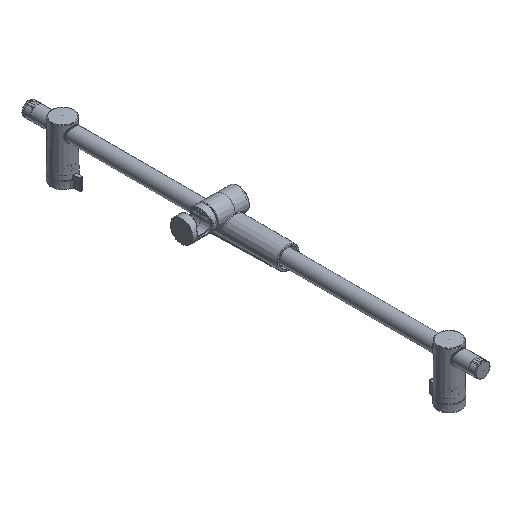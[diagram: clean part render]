
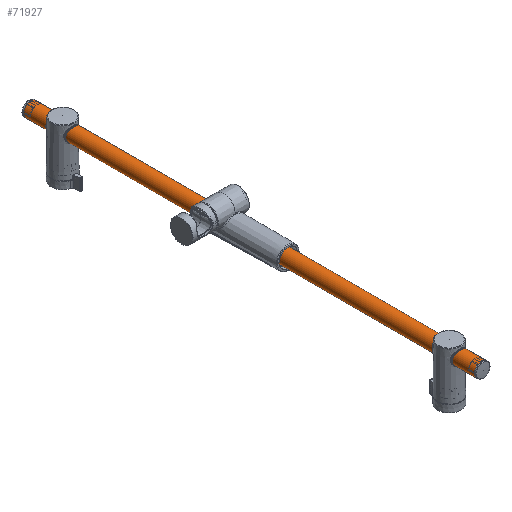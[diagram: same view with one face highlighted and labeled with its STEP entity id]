
A CAD part, isometric view. The second image highlights one B-rep face of the part: STEP entity #71927.
In plain terms, the highlighted cylindrical face has radius 11 mm (diameter 22 mm), a full revolution.
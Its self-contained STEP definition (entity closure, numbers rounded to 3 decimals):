
#4282=LINE('',#105081,#9353);
#9353=VECTOR('',#84303,11.);
#14424=CYLINDRICAL_SURFACE('',#76436,11.);
#15568=FACE_OUTER_BOUND('',#20031,.T.);
#20031=EDGE_LOOP('',(#47254,#47255,#47256,#47257,#47258,#47259));
#24766=CIRCLE('',#76432,11.);
#24767=CIRCLE('',#76433,11.);
#24770=CIRCLE('',#76437,11.);
#24771=CIRCLE('',#76438,11.);
#28631=VERTEX_POINT('',#105068);
#28632=VERTEX_POINT('',#105069);
#28635=VERTEX_POINT('',#105077);
#28636=VERTEX_POINT('',#105078);
#35841=EDGE_CURVE('',#28631,#28632,#24766,.T.);
#35842=EDGE_CURVE('',#28632,#28631,#24767,.T.);
#35845=EDGE_CURVE('',#28635,#28636,#24770,.T.);
#35846=EDGE_CURVE('',#28636,#28635,#24771,.T.);
#35847=EDGE_CURVE('',#28636,#28632,#4282,.T.);
#47254=ORIENTED_EDGE('',*,*,#35845,.F.);
#47255=ORIENTED_EDGE('',*,*,#35846,.F.);
#47256=ORIENTED_EDGE('',*,*,#35847,.T.);
#47257=ORIENTED_EDGE('',*,*,#35842,.T.);
#47258=ORIENTED_EDGE('',*,*,#35841,.T.);
#47259=ORIENTED_EDGE('',*,*,#35847,.F.);
#71927=ADVANCED_FACE('',(#15568),#14424,.T.);
#76432=AXIS2_PLACEMENT_3D('',#105070,#84289,#84290);
#76433=AXIS2_PLACEMENT_3D('',#105071,#84291,#84292);
#76436=AXIS2_PLACEMENT_3D('',#105076,#84297,#84298);
#76437=AXIS2_PLACEMENT_3D('',#105079,#84299,#84300);
#76438=AXIS2_PLACEMENT_3D('',#105080,#84301,#84302);
#84289=DIRECTION('center_axis',(0.,1.,0.));
#84290=DIRECTION('ref_axis',(0.,0.,1.));
#84291=DIRECTION('center_axis',(0.,1.,0.));
#84292=DIRECTION('ref_axis',(0.,0.,1.));
#84297=DIRECTION('center_axis',(0.,1.,0.));
#84298=DIRECTION('ref_axis',(0.,0.,1.));
#84299=DIRECTION('center_axis',(0.,1.,0.));
#84300=DIRECTION('ref_axis',(0.,0.,1.));
#84301=DIRECTION('center_axis',(0.,1.,0.));
#84302=DIRECTION('ref_axis',(0.,0.,1.));
#84303=DIRECTION('',(0.,-1.,0.));
#105068=CARTESIAN_POINT('',(12.8,-350.,-1.8));
#105069=CARTESIAN_POINT('',(12.8,-350.,-23.8));
#105070=CARTESIAN_POINT('Origin',(12.8,-350.,-12.8));
#105071=CARTESIAN_POINT('Origin',(12.8,-350.,-12.8));
#105076=CARTESIAN_POINT('Origin',(12.8,-350.,-12.8));
#105077=CARTESIAN_POINT('',(12.8,350.,-1.8));
#105078=CARTESIAN_POINT('',(12.8,350.,-23.8));
#105079=CARTESIAN_POINT('Origin',(12.8,350.,-12.8));
#105080=CARTESIAN_POINT('Origin',(12.8,350.,-12.8));
#105081=CARTESIAN_POINT('',(12.8,-350.,-23.8));
